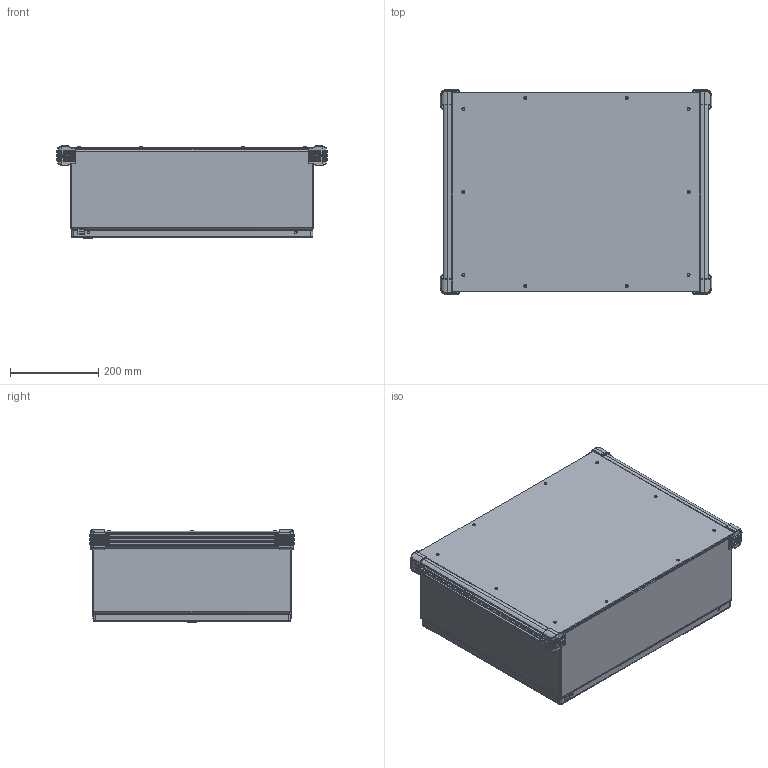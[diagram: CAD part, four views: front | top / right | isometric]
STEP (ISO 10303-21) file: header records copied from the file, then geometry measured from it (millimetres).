
FILE_DESCRIPTION (( 'STEP AP203' ), '1' );
FILE_NAME ('cp455518.STEP', '2012-06-08T17:10:26', ( 'User' ), ( 'Pentair Inc' ), 'SwSTEP 2.0', 'SolidWorks 2010', '' );
FILE_SCHEMA (( 'CONFIG_CONTROL_DESIGN' ));
Length unit declared in the file: inch
Products named in the file (38): 89076193; 89056623; 87789769_ASSEMBLED; 89061403; 87792578; 87792576; 99416066; 87929507; 87929767; 87929769_Installed on Pin; cp455518; 89061126; 87789245_default; 99401225_Config-Drawing; 87938523_assy; 87938547_fip; 87938499; 87931362_87931362; 99401225; 87938563_87926013; 87921906_After Weld; 64101001; 64201001; 87541994_Installed Height; 87541995; 64202001; 64210001; 64203001; 87927840_87927840; 87932903; 64138001; 89061094; 87789213; 87541671_87541671; 87789171; 87789150; 87543027; 89076399
Assembly tree (77 placements, depth 4):
  cp455518
    89061126
      87789245_default
      99401225_Config-Drawing  x3
    99416066  x6
    87543027  x2
    87792578  x6
    89076399  x2
      89076193
      89056623
    87792576  x6
    87938523_assy
      87938547_fip
        87938563_87926013
        87921906_After Weld  x4
        87938499
        87931362_87931362  x2
        99401225
      87932903  x2
      64101001
        64210001
        64203001
        87927840_87927840
        64201001
        87541994_Installed Height
        64202001
        87541995
      64138001  x2
    87789171  x2
    87929507  x2
      87929767
      87929769_Installed on Pin
    87789150  x4
    87789769_ASSEMBLED
      89061403  x2
    89061094
      87541671_87541671  x10
      87789213
Bounding box: 614.3 x 463.88 x 209.3 mm (x, y, z)
Volume: 2845969.6 mm3; surface area: 2432576.7 mm2
Topology: 72 solids, 72 shells, 4366 faces, 11007 edges, 6766 vertices
Faces by surface type: plane 1777, cylinder 1425, bspline 444, torus 374, cone 294, sphere 52
Entity records: 68869 total; most frequent: CARTESIAN_POINT 21021, ORIENTED_EDGE 9156, DIRECTION 8613, EDGE_CURVE 4578, AXIS2_PLACEMENT_3D 3172, VERTEX_POINT 2832, LINE 2269, VECTOR 2269
